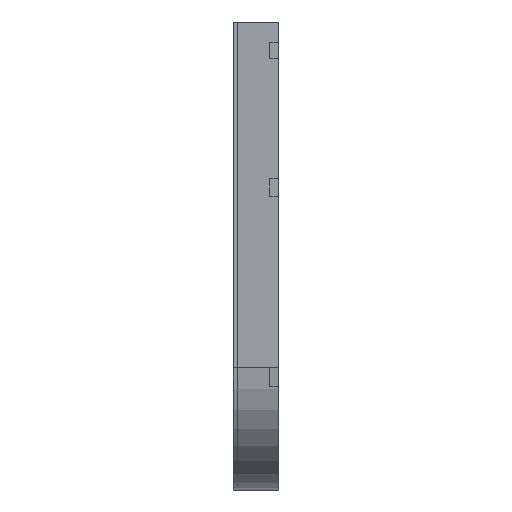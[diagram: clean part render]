
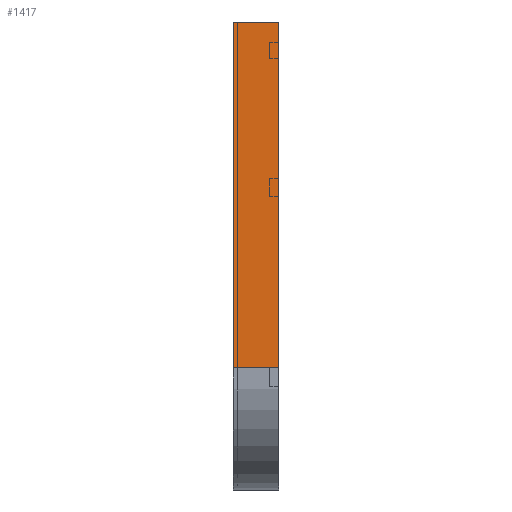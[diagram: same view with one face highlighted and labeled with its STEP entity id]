
A CAD part, left-side view. The second image highlights one B-rep face of the part: STEP entity #1417.
In plain terms, the highlighted planar face has unit normal (-1, 0, 0).
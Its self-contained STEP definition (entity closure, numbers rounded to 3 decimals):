
#105 = VECTOR ( 'NONE', #1479, 1000. ) ;
#109 = EDGE_CURVE ( 'NONE', #1845, #1086, #708, .T. ) ;
#117 = CARTESIAN_POINT ( 'NONE',  ( 0., 112.5, -850. ) ) ;
#121 = ORIENTED_EDGE ( 'NONE', *, *, #109, .T. ) ;
#155 = EDGE_LOOP ( 'NONE', ( #1616, #1274, #121, #2059 ) ) ;
#187 = VERTEX_POINT ( 'NONE', #2032 ) ;
#358 = CARTESIAN_POINT ( 'NONE',  ( 0., 0., -850. ) ) ;
#471 = VECTOR ( 'NONE', #2043, 1000. ) ;
#708 = LINE ( 'NONE', #1319, #1666 ) ;
#726 = LINE ( 'NONE', #1205, #733 ) ;
#727 = PLANE ( 'NONE',  #798 ) ;
#733 = VECTOR ( 'NONE', #1517, 1000. ) ;
#798 = AXIS2_PLACEMENT_3D ( 'NONE', #1370, #1825, #1025 ) ;
#842 = CARTESIAN_POINT ( 'NONE',  ( 0., 0., -850. ) ) ;
#891 = LINE ( 'NONE', #1560, #471 ) ;
#947 = VERTEX_POINT ( 'NONE', #358 ) ;
#994 = EDGE_CURVE ( 'NONE', #187, #947, #891, .T. ) ;
#1025 = DIRECTION ( 'NONE',  ( 0., 0., -1. ) ) ;
#1086 = VERTEX_POINT ( 'NONE', #117 ) ;
#1205 = CARTESIAN_POINT ( 'NONE',  ( 0., 0., 0. ) ) ;
#1274 = ORIENTED_EDGE ( 'NONE', *, *, #2023, .F. ) ;
#1319 = CARTESIAN_POINT ( 'NONE',  ( 0., 112.5, 0. ) ) ;
#1343 = EDGE_CURVE ( 'NONE', #1086, #947, #1803, .T. ) ;
#1370 = CARTESIAN_POINT ( 'NONE',  ( 0., 0., 0. ) ) ;
#1417 = ADVANCED_FACE ( 'NONE', ( #1709 ), #727, .F. ) ;
#1479 = DIRECTION ( 'NONE',  ( 0., -1., 0. ) ) ;
#1517 = DIRECTION ( 'NONE',  ( 0., -1., 0. ) ) ;
#1560 = CARTESIAN_POINT ( 'NONE',  ( 0., 0., 0. ) ) ;
#1616 = ORIENTED_EDGE ( 'NONE', *, *, #994, .F. ) ;
#1666 = VECTOR ( 'NONE', #1830, 1000. ) ;
#1709 = FACE_OUTER_BOUND ( 'NONE', #155, .T. ) ;
#1803 = LINE ( 'NONE', #842, #105 ) ;
#1825 = DIRECTION ( 'NONE',  ( 1., 0., 0. ) ) ;
#1830 = DIRECTION ( 'NONE',  ( 0., 0., -1. ) ) ;
#1845 = VERTEX_POINT ( 'NONE', #1907 ) ;
#1907 = CARTESIAN_POINT ( 'NONE',  ( 0., 112.5, 0. ) ) ;
#2023 = EDGE_CURVE ( 'NONE', #1845, #187, #726, .T. ) ;
#2032 = CARTESIAN_POINT ( 'NONE',  ( 0., 0., 0. ) ) ;
#2043 = DIRECTION ( 'NONE',  ( 0., 0., -1. ) ) ;
#2059 = ORIENTED_EDGE ( 'NONE', *, *, #1343, .T. ) ;
